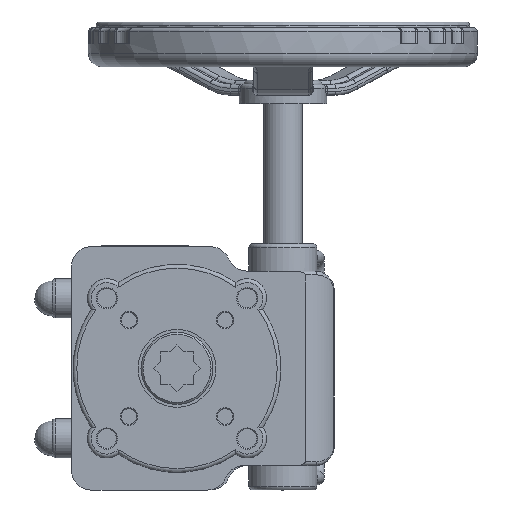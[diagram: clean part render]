
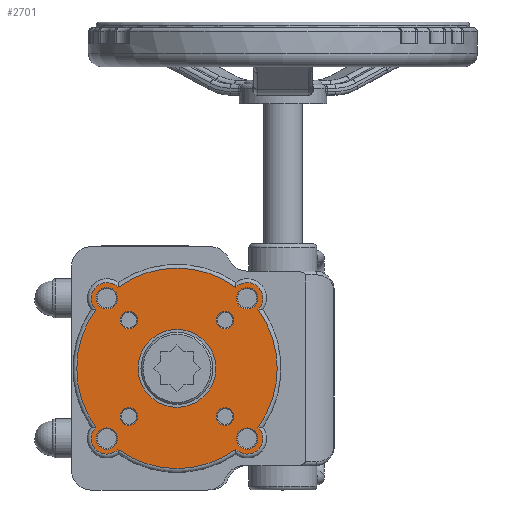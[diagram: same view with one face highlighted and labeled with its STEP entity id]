
A CAD part, front view. The second image highlights one B-rep face of the part: STEP entity #2701.
In plain terms, the highlighted planar face has unit normal (0, -1, 0).
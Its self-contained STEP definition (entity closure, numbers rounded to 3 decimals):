
#2701=ADVANCED_FACE('',(#12197,#12199,#12201,#12203,#12205,#12207,#12209,#12211,
#12213,#12215),#12217,.T.);
#12197=FACE_BOUND('',#12198,.T.);
#12198=EDGE_LOOP('',(#24451,#24452,#24453,#24454,#24455,#24456,#24457,#24458));
#12199=FACE_BOUND('',#12200,.T.);
#12200=EDGE_LOOP('',(#24459));
#12201=FACE_BOUND('',#12202,.T.);
#12202=EDGE_LOOP('',(#24460));
#12203=FACE_BOUND('',#12204,.T.);
#12204=EDGE_LOOP('',(#24461));
#12205=FACE_BOUND('',#12206,.T.);
#12206=EDGE_LOOP('',(#24462));
#12207=FACE_BOUND('',#12208,.T.);
#12208=EDGE_LOOP('',(#24463));
#12209=FACE_BOUND('',#12210,.T.);
#12210=EDGE_LOOP('',(#24464));
#12211=FACE_BOUND('',#12212,.T.);
#12212=EDGE_LOOP('',(#24465));
#12213=FACE_BOUND('',#12214,.T.);
#12214=EDGE_LOOP('',(#24466));
#12215=FACE_BOUND('',#12216,.T.);
#12216=EDGE_LOOP('',(#24467));
#12217=PLANE('',#12218);
#12218=AXIS2_PLACEMENT_3D('',#12219,#12220,#12221);
#12219=CARTESIAN_POINT('',(0.,0.,0.));
#12220=DIRECTION('',(0.,-1.,0.));
#12221=DIRECTION('',(1.,0.,0.));
#24451=ORIENTED_EDGE('',*,*,#28402,.F.);
#24452=ORIENTED_EDGE('',*,*,#28400,.F.);
#24453=ORIENTED_EDGE('',*,*,#28398,.F.);
#24454=ORIENTED_EDGE('',*,*,#28396,.F.);
#24455=ORIENTED_EDGE('',*,*,#28410,.F.);
#24456=ORIENTED_EDGE('',*,*,#28408,.F.);
#24457=ORIENTED_EDGE('',*,*,#28406,.F.);
#24458=ORIENTED_EDGE('',*,*,#28404,.F.);
#24459=ORIENTED_EDGE('',*,*,#28449,.F.);
#24460=ORIENTED_EDGE('',*,*,#28450,.F.);
#24461=ORIENTED_EDGE('',*,*,#28451,.F.);
#24462=ORIENTED_EDGE('',*,*,#28452,.F.);
#24463=ORIENTED_EDGE('',*,*,#28453,.T.);
#24464=ORIENTED_EDGE('',*,*,#28454,.F.);
#24465=ORIENTED_EDGE('',*,*,#28455,.F.);
#24466=ORIENTED_EDGE('',*,*,#28456,.F.);
#24467=ORIENTED_EDGE('',*,*,#28457,.F.);
#28396=EDGE_CURVE('',#31173,#31175,#31176,.T.);
#28398=EDGE_CURVE('',#31175,#31178,#31179,.T.);
#28400=EDGE_CURVE('',#31178,#31181,#31182,.T.);
#28402=EDGE_CURVE('',#31181,#31184,#31185,.T.);
#28404=EDGE_CURVE('',#31184,#31187,#31188,.T.);
#28406=EDGE_CURVE('',#31187,#31190,#31191,.T.);
#28408=EDGE_CURVE('',#31190,#31193,#31194,.T.);
#28410=EDGE_CURVE('',#31193,#31173,#31196,.T.);
#28449=EDGE_CURVE('',#31259,#31259,#31260,.T.);
#28450=EDGE_CURVE('',#31261,#31261,#31262,.T.);
#28451=EDGE_CURVE('',#31263,#31263,#31264,.T.);
#28452=EDGE_CURVE('',#31265,#31265,#31266,.T.);
#28453=EDGE_CURVE('',#31267,#31267,#31268,.T.);
#28454=EDGE_CURVE('',#31269,#31269,#31270,.T.);
#28455=EDGE_CURVE('',#31271,#31271,#31272,.T.);
#28456=EDGE_CURVE('',#31273,#31273,#31274,.T.);
#28457=EDGE_CURVE('',#31275,#31275,#31276,.T.);
#31173=VERTEX_POINT('',#40007);
#31175=VERTEX_POINT('',#40076);
#31176=CIRCLE('',#40077,51.5);
#31178=VERTEX_POINT('',#40149);
#31179=CIRCLE('',#40150,8.);
#31181=VERTEX_POINT('',#40222);
#31182=CIRCLE('',#40223,51.5);
#31184=VERTEX_POINT('',#40295);
#31185=CIRCLE('',#40296,8.);
#31187=VERTEX_POINT('',#40368);
#31188=CIRCLE('',#40369,51.5);
#31190=VERTEX_POINT('',#40441);
#31191=CIRCLE('',#40442,8.);
#31193=VERTEX_POINT('',#40514);
#31194=CIRCLE('',#40515,51.5);
#31196=CIRCLE('',#40587,8.);
#31259=VERTEX_POINT('',#40995);
#31260=CIRCLE('',#40996,4.5);
#31261=VERTEX_POINT('',#41000);
#31262=CIRCLE('',#41001,5.5);
#31263=VERTEX_POINT('',#41005);
#31264=CIRCLE('',#41006,5.5);
#31265=VERTEX_POINT('',#41010);
#31266=CIRCLE('',#41011,5.5);
#31267=VERTEX_POINT('',#41015);
#31268=CIRCLE('',#41016,20.);
#31269=VERTEX_POINT('',#41020);
#31270=CIRCLE('',#41021,4.5);
#31271=VERTEX_POINT('',#41025);
#31272=CIRCLE('',#41026,4.5);
#31273=VERTEX_POINT('',#41030);
#31274=CIRCLE('',#41031,4.5);
#31275=VERTEX_POINT('',#41035);
#31276=CIRCLE('',#41036,5.5);
#40007=CARTESIAN_POINT('',(-30.318,0.,41.63));
#40076=CARTESIAN_POINT('',(30.318,0.,41.63));
#40077=AXIS2_PLACEMENT_3D('',#40078,#40079,#40080);
#40078=CARTESIAN_POINT('',(0.,0.,0.));
#40079=DIRECTION('',(0.,1.,0.));
#40080=DIRECTION('',(-0.589,0.,0.808));
#40149=CARTESIAN_POINT('',(41.63,0.,30.318));
#40150=AXIS2_PLACEMENT_3D('',#40151,#40152,#40153);
#40151=CARTESIAN_POINT('',(36.062,0.,36.062));
#40152=DIRECTION('',(0.,1.,0.));
#40153=DIRECTION('',(-0.718,0.,0.696));
#40222=CARTESIAN_POINT('',(41.63,0.,-30.318));
#40223=AXIS2_PLACEMENT_3D('',#40224,#40225,#40226);
#40224=CARTESIAN_POINT('',(0.,0.,0.));
#40225=DIRECTION('',(0.,1.,0.));
#40226=DIRECTION('',(0.808,0.,0.589));
#40295=CARTESIAN_POINT('',(30.318,0.,-41.63));
#40296=AXIS2_PLACEMENT_3D('',#40297,#40298,#40299);
#40297=CARTESIAN_POINT('',(36.062,0.,-36.062));
#40298=DIRECTION('',(0.,1.,0.));
#40299=DIRECTION('',(0.696,0.,0.718));
#40368=CARTESIAN_POINT('',(-30.318,0.,-41.63));
#40369=AXIS2_PLACEMENT_3D('',#40370,#40371,#40372);
#40370=CARTESIAN_POINT('',(0.,0.,0.));
#40371=DIRECTION('',(0.,1.,0.));
#40372=DIRECTION('',(0.589,0.,-0.808));
#40441=CARTESIAN_POINT('',(-41.63,0.,-30.318));
#40442=AXIS2_PLACEMENT_3D('',#40443,#40444,#40445);
#40443=CARTESIAN_POINT('',(-36.062,0.,-36.062));
#40444=DIRECTION('',(0.,1.,0.));
#40445=DIRECTION('',(0.718,0.,-0.696));
#40514=CARTESIAN_POINT('',(-41.63,0.,30.318));
#40515=AXIS2_PLACEMENT_3D('',#40516,#40517,#40518);
#40516=CARTESIAN_POINT('',(0.,0.,0.));
#40517=DIRECTION('',(0.,1.,0.));
#40518=DIRECTION('',(-0.808,0.,-0.589));
#40587=AXIS2_PLACEMENT_3D('',#40588,#40589,#40590);
#40588=CARTESIAN_POINT('',(-36.062,0.,36.062));
#40589=DIRECTION('',(0.,1.,0.));
#40590=DIRECTION('',(-0.696,0.,-0.718));
#40995=CARTESIAN_POINT('',(29.249,0.,24.749));
#40996=AXIS2_PLACEMENT_3D('',#40997,#40998,#40999);
#40997=CARTESIAN_POINT('',(24.749,0.,24.749));
#40998=DIRECTION('',(0.,-1.,0.));
#40999=DIRECTION('',(1.,0.,0.));
#41000=CARTESIAN_POINT('',(41.562,0.,-36.062));
#41001=AXIS2_PLACEMENT_3D('',#41002,#41003,#41004);
#41002=CARTESIAN_POINT('',(36.062,0.,-36.062));
#41003=DIRECTION('',(0.,-1.,0.));
#41004=DIRECTION('',(1.,0.,0.));
#41005=CARTESIAN_POINT('',(-30.562,0.,-36.062));
#41006=AXIS2_PLACEMENT_3D('',#41007,#41008,#41009);
#41007=CARTESIAN_POINT('',(-36.062,0.,-36.062));
#41008=DIRECTION('',(0.,-1.,0.));
#41009=DIRECTION('',(1.,0.,0.));
#41010=CARTESIAN_POINT('',(-30.562,0.,36.062));
#41011=AXIS2_PLACEMENT_3D('',#41012,#41013,#41014);
#41012=CARTESIAN_POINT('',(-36.062,0.,36.062));
#41013=DIRECTION('',(0.,-1.,0.));
#41014=DIRECTION('',(1.,0.,0.));
#41015=CARTESIAN_POINT('',(20.,0.,0.));
#41016=AXIS2_PLACEMENT_3D('',#41017,#41018,#41019);
#41017=CARTESIAN_POINT('',(0.,0.,0.));
#41018=DIRECTION('',(0.,1.,0.));
#41019=DIRECTION('',(1.,0.,0.));
#41020=CARTESIAN_POINT('',(-20.249,0.,24.749));
#41021=AXIS2_PLACEMENT_3D('',#41022,#41023,#41024);
#41022=CARTESIAN_POINT('',(-24.749,0.,24.749));
#41023=DIRECTION('',(0.,-1.,0.));
#41024=DIRECTION('',(1.,0.,0.));
#41025=CARTESIAN_POINT('',(-20.249,0.,-24.749));
#41026=AXIS2_PLACEMENT_3D('',#41027,#41028,#41029);
#41027=CARTESIAN_POINT('',(-24.749,0.,-24.749));
#41028=DIRECTION('',(0.,-1.,0.));
#41029=DIRECTION('',(1.,0.,0.));
#41030=CARTESIAN_POINT('',(29.249,0.,-24.749));
#41031=AXIS2_PLACEMENT_3D('',#41032,#41033,#41034);
#41032=CARTESIAN_POINT('',(24.749,0.,-24.749));
#41033=DIRECTION('',(0.,-1.,0.));
#41034=DIRECTION('',(1.,0.,0.));
#41035=CARTESIAN_POINT('',(41.562,0.,36.062));
#41036=AXIS2_PLACEMENT_3D('',#41037,#41038,#41039);
#41037=CARTESIAN_POINT('',(36.062,0.,36.062));
#41038=DIRECTION('',(0.,-1.,0.));
#41039=DIRECTION('',(1.,0.,0.));
